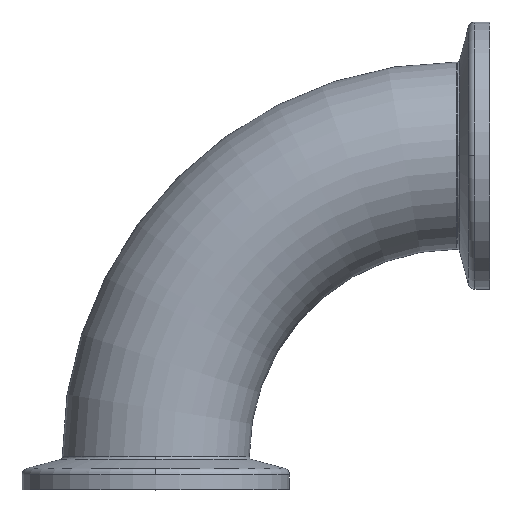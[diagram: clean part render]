
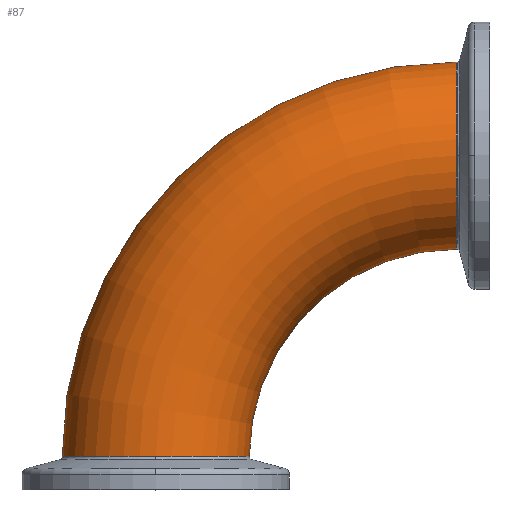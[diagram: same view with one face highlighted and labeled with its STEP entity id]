
A CAD part, top view. The second image highlights one B-rep face of the part: STEP entity #87.
In plain terms, the highlighted toroidal (fillet/blend) face has major radius 45 mm and minor radius 14 mm.
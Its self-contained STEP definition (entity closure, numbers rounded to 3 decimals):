
#44=CARTESIAN_POINT('',(0.0,0.0,0.0));
#45=DIRECTION('',(0.0,0.0,-1.0));
#46=DIRECTION('',(-1.0,0.0,0.0));
#47=AXIS2_PLACEMENT_3D('',#44,#45,#46);
#48=TOROIDAL_SURFACE('',#47,45.0,14.);
#49=CARTESIAN_POINT('',(-59.0,0.,0.));
#50=VERTEX_POINT('',#49);
#51=CARTESIAN_POINT('',(0.,59.0,0.));
#52=VERTEX_POINT('',#51);
#53=CARTESIAN_POINT('',(0.0,0.0,0.));
#54=DIRECTION('',(0.0,0.0,-1.0));
#55=DIRECTION('',(-1.0,0.0,0.0));
#56=AXIS2_PLACEMENT_3D('',#53,#54,#55);
#57=CIRCLE('',#56,59.0);
#58=EDGE_CURVE('',#50,#52,#57,.T.);
#59=ORIENTED_EDGE('',*,*,#58,.F.);
#60=CARTESIAN_POINT('',(-31.,0.,0.));
#61=VERTEX_POINT('',#60);
#62=CARTESIAN_POINT('',(-45.0,0.,0.0));
#63=DIRECTION('',(0.0,-1.0,0.0));
#64=DIRECTION('',(1.0,0.0,0.0));
#65=AXIS2_PLACEMENT_3D('',#62,#63,#64);
#66=CIRCLE('',#65,14.);
#67=EDGE_CURVE('',#61,#50,#66,.T.);
#68=ORIENTED_EDGE('',*,*,#67,.F.);
#69=CARTESIAN_POINT('',(0.,31.,0.));
#70=VERTEX_POINT('',#69);
#71=CARTESIAN_POINT('',(0.0,0.0,0.));
#72=DIRECTION('',(0.0,0.0,1.0));
#73=DIRECTION('',(-1.0,0.0,0.0));
#74=AXIS2_PLACEMENT_3D('',#71,#72,#73);
#75=CIRCLE('',#74,31.);
#76=EDGE_CURVE('',#70,#61,#75,.T.);
#77=ORIENTED_EDGE('',*,*,#76,.F.);
#78=CARTESIAN_POINT('',(0.,45.0,0.0));
#79=DIRECTION('',(-1.0,0.0,0.0));
#80=DIRECTION('',(0.0,-1.0,0.0));
#81=AXIS2_PLACEMENT_3D('',#78,#79,#80);
#82=CIRCLE('',#81,14.);
#83=EDGE_CURVE('',#70,#52,#82,.T.);
#84=ORIENTED_EDGE('',*,*,#83,.T.);
#85=EDGE_LOOP('',(#59,#68,#77,#84));
#86=FACE_OUTER_BOUND('',#85,.T.);
#87=ADVANCED_FACE('',(#86),#48,.T.);
